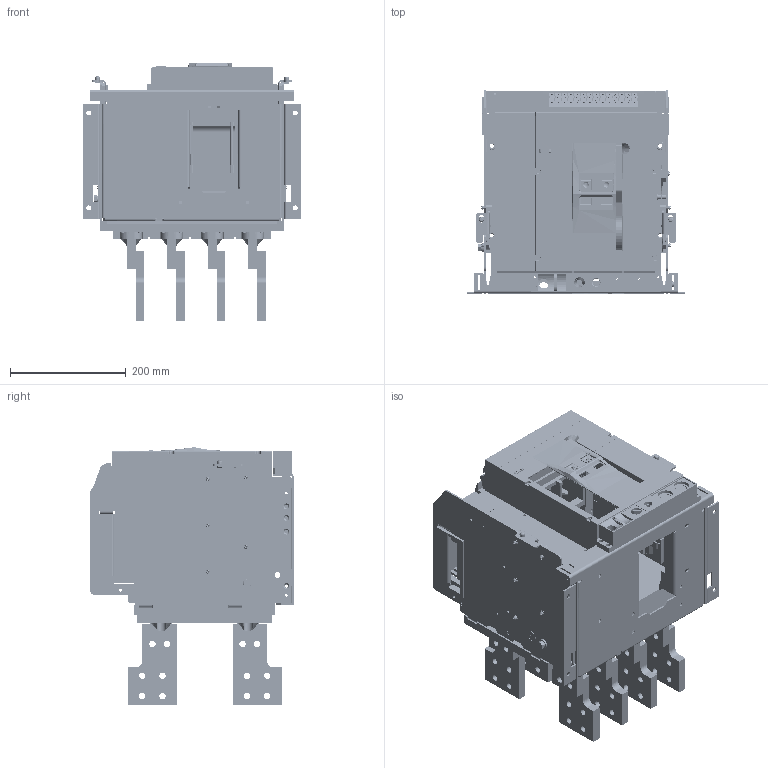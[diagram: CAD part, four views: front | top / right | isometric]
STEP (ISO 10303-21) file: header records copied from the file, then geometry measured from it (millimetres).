
FILE_DESCRIPTION((''),'2;1');
FILE_NAME('NA8G-1600-1600-DO-4P-V_ASM','2019-06-03T08:23:44',('lcc'),(''),'CREO PARAMETRIC BY PTC INC, 2018020','CREO PARAMETRIC BY PTC INC, 2018020','');
FILE_SCHEMA(('CONFIG_CONTROL_DESIGN','SHAPE_APPEARANCE_LAYERS_GROUPS'));
Products named in the file (52): 8-024-498; 8-300-164; 8-141-125; 8ZTD-860-349-2; 8-441-081; 5ZTD-024-170_ASM; 8-050-244; 8-960-058; 8-960-056; 8-960-057; 8-960-060; 8-960-059; 8-127-020; 8-125-057; 8-123-120; 8-261-001; 8-125-001; 8-210-176; 5-124-010_ASM; 8-233-301; GBT97_1-4; GBT93-4; GBT818-M4X10; GBT845-ST4_2X9_5C; GBT6170-M8; 5-050-095_ASM; 8-050-243; 8-261-002; 8-125-002; 5-124-011_ASM; GBT97_1-8; GBT93-8; GBT5783-M8X16; 5-050-096_ASM; 8-300-163; 8-015-020; 8ZTD-043-780; 8ZTD-043-781; 8-300-162-2; 8-005-238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
Assembly tree (112 placements, depth 4):
  NA8G-1600-1600-DO-4P-V_ASM
    5ZTD-024-170_ASM
      8-024-498
      8-300-164
      8-141-125
      8ZTD-860-349-2
      8-441-081
    5-050-095_ASM
      8-050-244
      8-960-058
      8-960-056
      8-960-057
      8-960-060
      8-960-059
      8-127-020
      8-125-057
      8-123-120
      5-124-010_ASM
        8-261-001
        8-125-001
        8-210-176
      8-233-301
      GBT97_1-4  x5
      GBT93-4  x5
      GBT818-M4X10  x5
      GBT845-ST4_2X9_5C
      GBT6170-M8  x2
    5-050-096_ASM
      8-050-243
      8-125-057
      8-123-120
      5-124-011_ASM
        8-261-002
        8-125-002
        8-210-176
      GBT6170-M8  x2
      GBT97_1-4  x5
      GBT93-4  x5
      GBT818-M4X10  x5
      GBT97_1-8  x2
      GBT93-8
      GBT5783-M8X16
    8-300-163
    8-015-020
    8ZTD-043-780
    8ZTD-043-781
    8-300-162-2
    8-005-238
    8-253-348
    8-253-349
    8-253-309
    5-235-147
    1600-DUANZI-CTS_ASM
      8ZTD-064-138
      8ZTD-024-689  x14
      8ZTD-860-511
    1600-DIJIA-4P
    8ZTD-580-187-1  x8
    8-580-209  x8
Bounding box: 378 x 351 x 445 mm (x, y, z)
Volume: 9429367.4 mm3; surface area: 2329351.5 mm2
Topology: 106 solids, 166 shells, 7888 faces, 21562 edges, 14181 vertices
Faces by surface type: plane 5797, cylinder 1832, cone 134, bspline 50, torus 42, sphere 32, extrusion 1
Entity records: 203401 total; most frequent: CARTESIAN_POINT 29982, ORIENTED_EDGE 27388, DIRECTION 26701, EDGE_CURVE 13705, PRESENTATION_STYLE_ASSIGNMENT 12822, STYLED_ITEM 12785, CURVE_STYLE 12101, VECTOR 10785
